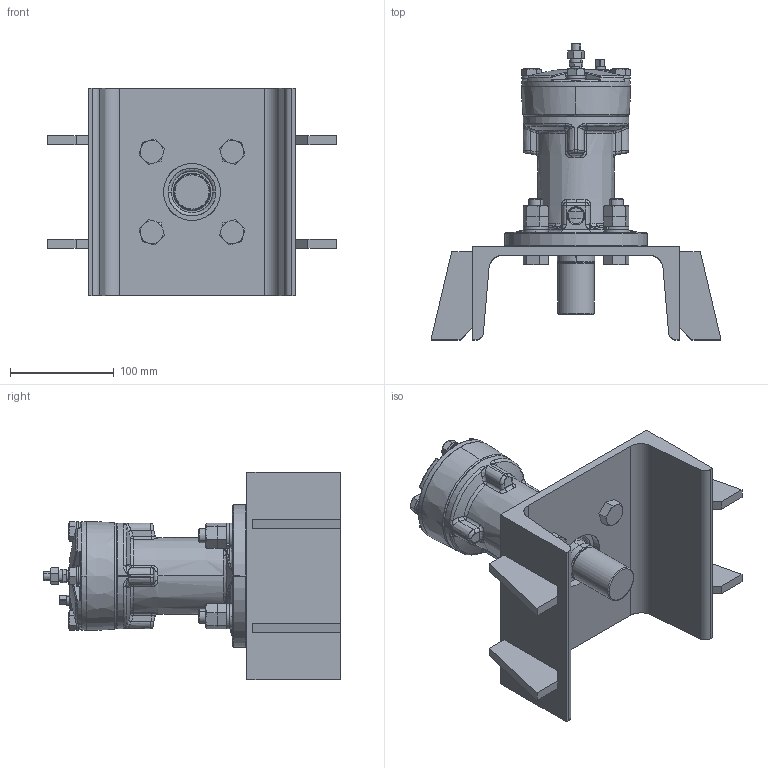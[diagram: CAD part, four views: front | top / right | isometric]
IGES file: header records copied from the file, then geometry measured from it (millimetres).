
Start section: SolidWorks IGES file using analytic representation for surfaces
Global section: file name: V:\WORK\08133\HP 寸法図\knocker\RKD60PB\test_K72000A-000 RKD60PB_defeature.IGS,15; native system: HSolidWorks 2018; preprocessor: SolidWorks 2018; author: n-udagawa; date: 230113.135148; units: millimetre
Bounding box: 280 x 286.21 x 200 mm (x, y, z)
Surface area: 258404.1 mm2 (no closed solid volume)
Topology: 0 solids, 0 shells, 852 faces, 12666 edges, 14638 vertices
Faces by surface type: bspline 557, revolution 295
